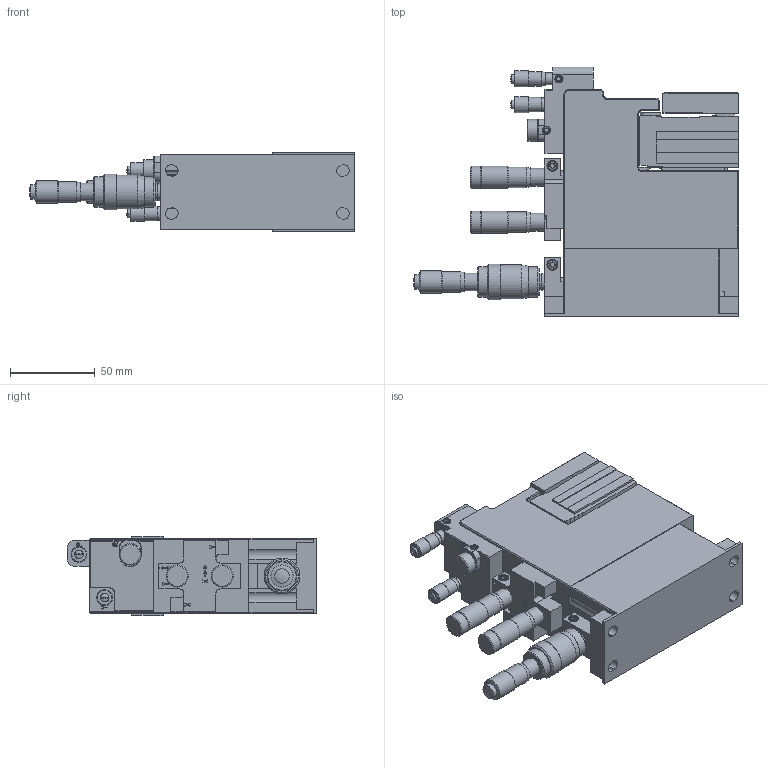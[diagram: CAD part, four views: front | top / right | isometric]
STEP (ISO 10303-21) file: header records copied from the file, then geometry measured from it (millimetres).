
FILE_DESCRIPTION((''),'1');
FILE_NAME('P1-L-H-I','2021-03-23T17:31:41',('JD'),('Luminos'),'Spatial Interop R20 SP1','Kubotek KeyCreator V9.0.3 (16864)',' ');
FILE_SCHEMA(('automotive_design'));
Length unit declared in the file: inch
Products named in the file (2): 1; 2
Bounding box: 191.28 x 147.07 x 46.99 mm (x, y, z)
Volume: 652522.9 mm3; surface area: 89855.6 mm2
Topology: 2 solids, 3 shells, 865 faces, 2025 edges, 1265 vertices
Faces by surface type: plane 519, cylinder 171, cone 170, sphere 5
Full cylindrical faces by diameter (mm): 2.261 x25, 4.039 x3, 4.648 x8, 4.762 x6, 4.775 x2, 5 x3, 5.08 x2, 5.74 x4, 6.35 x3, 7.01 x2, 7.144 x1, 8.509 x2, 8.7 x1, 9.3 x1, 9.322 x2, 9.5 x3, 9.525 x1, 10.49 x2, 10.5 x1, 12.1 x1, 12.116 x2, 12.7 x1, 13 x1, 13.081 x4, 17.7 x2, 20 x1, 21 x1
Entity records: 42554 total; most frequent: CARTESIAN_POINT 4087, DIRECTION 3981, ORIENTED_EDGE 3638, PRESENTATION_STYLE_ASSIGNMENT 3553, COLOUR_RGB 3553, STYLED_ITEM 2686, CURVE_STYLE 2686, DRAUGHTING_PRE_DEFINED_CURVE_FONT 2686
